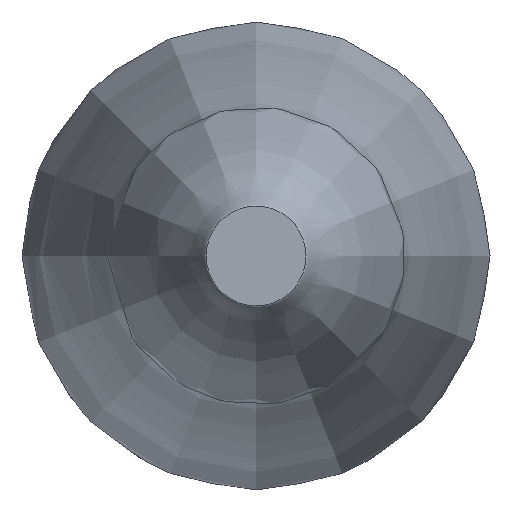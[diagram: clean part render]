
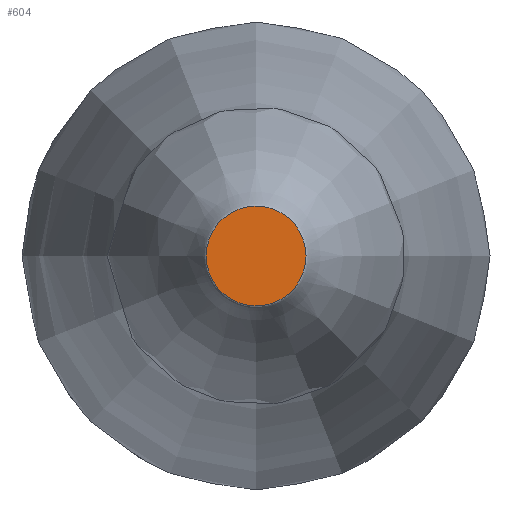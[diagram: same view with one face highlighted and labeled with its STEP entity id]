
A CAD part, left-side view. The second image highlights one B-rep face of the part: STEP entity #604.
In plain terms, the highlighted planar face has unit normal (-1, 0, 0).
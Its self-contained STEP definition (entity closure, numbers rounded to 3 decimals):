
#511=CARTESIAN_POINT('',(120.0,35.0,0.0));
#512=VERTEX_POINT('',#511);
#577=CARTESIAN_POINT('',(120.0,0.,0.0));
#578=DIRECTION('',(1.0,0.0,0.0));
#579=DIRECTION('',(0.0,1.0,0.0));
#580=AXIS2_PLACEMENT_3D('',#577,#578,#579);
#581=CIRCLE('',#580,35.0);
#582=EDGE_CURVE('',#512,#512,#581,.T.);
#596=CARTESIAN_POINT('',(120.0,17.5,0.0));
#597=DIRECTION('',(-1.0,0.0,0.0));
#598=DIRECTION('',(0.0,0.0,1.0));
#599=AXIS2_PLACEMENT_3D('',#596,#597,#598);
#600=PLANE('',#599);
#601=ORIENTED_EDGE('',*,*,#582,.F.);
#602=EDGE_LOOP('',(#601));
#603=FACE_OUTER_BOUND('',#602,.T.);
#604=ADVANCED_FACE('',(#603),#600,.T.);
